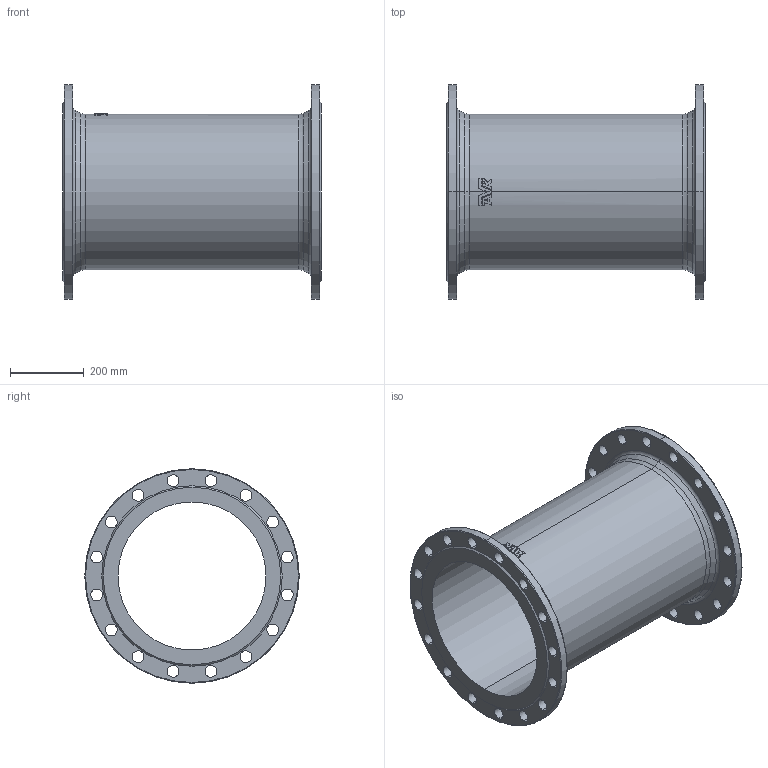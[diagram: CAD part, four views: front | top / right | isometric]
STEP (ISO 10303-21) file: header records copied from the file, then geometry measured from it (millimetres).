
FILE_DESCRIPTION (( 'STEP AP203' ), '1' );
FILE_NAME ('O_712_5010_DN400_1X_REV01.step', '2021-12-03T10:12:44', ( '' ), ( '' ), 'SwSTEP 2.0', 'SolidWorks 2019', '' );
FILE_SCHEMA (( 'CONFIG_CONTROL_DESIGN' ));
Length unit declared in the file: millimetre
Products named in the file (1): O_712_5010_DN400_1X_REV01
Bounding box: 700 x 580 x 580 mm (x, y, z)
Volume: 15269243.4 mm3; surface area: 2341814.4 mm2
Topology: 1 solids, 1 shells, 144 faces, 383 edges, 248 vertices
Faces by surface type: cylinder 77, plane 26, bspline 17, torus 16, cone 8
Entity records: 5518 total; most frequent: CARTESIAN_POINT 1631, DIRECTION 827, ORIENTED_EDGE 766, EDGE_CURVE 383, AXIS2_PLACEMENT_3D 350, VERTEX_POINT 248, CIRCLE 222, EDGE_LOOP 217
